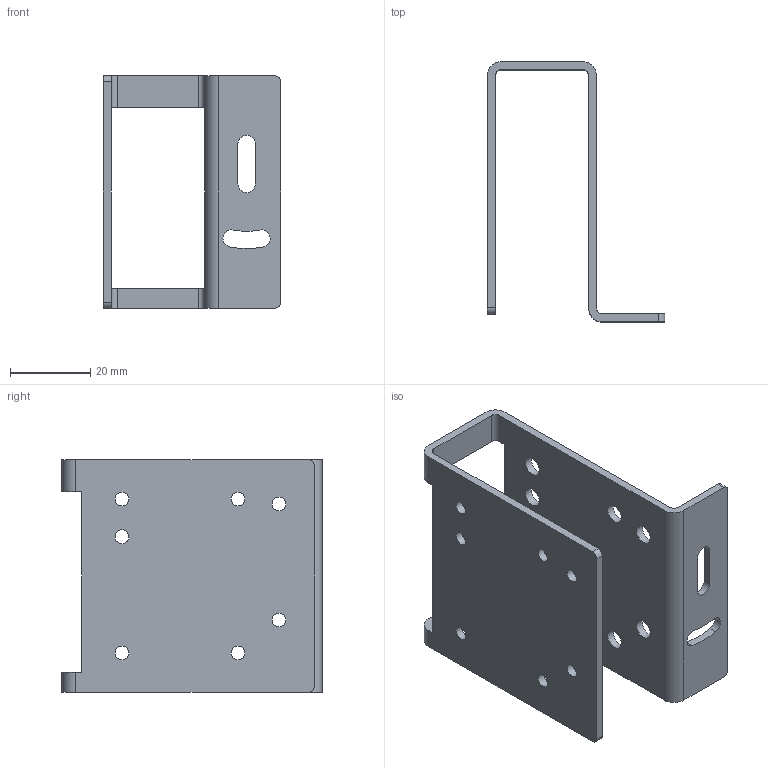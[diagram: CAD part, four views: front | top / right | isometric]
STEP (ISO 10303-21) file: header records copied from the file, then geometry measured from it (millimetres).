
FILE_DESCRIPTION(/* description */ (''),/* implementation_level */ '2;1');
FILE_NAME(/* name */ 'C:\#Vault-WorkDir\Konstruktions-Dokumente\Projekte\F55\Zubehör\153-00819_MSP F55.stp',/* time_stamp */ '2018-02-27T09:20:25+01:00',/* author */ ('SensoPart'),/* organization */ ('SensoPart'),/* preprocessor_version */ 'ST-DEVELOPER v16.1',/* originating_system */ 'Autodesk Inventor 2016',/* authorisation */ '');
FILE_SCHEMA (('AUTOMOTIVE_DESIGN { 1 0 10303 214 3 1 1 }'));
Length unit declared in the file: millimetre
Products named in the file (1): GH-ENG-0023060
Bounding box: 44.25 x 65 x 58 mm (x, y, z)
Volume: 15749.3 mm3; surface area: 17426.6 mm2
Topology: 1 solids, 1 shells, 54 faces, 169 edges, 115 vertices
Faces by surface type: cylinder 34, plane 20
Full cylindrical faces by diameter (mm): 3.422 x7, 4.8 x7
Entity records: 1890 total; most frequent: DIRECTION 326, CARTESIAN_POINT 311, ORIENTED_EDGE 296, EDGE_CURVE 148, AXIS2_PLACEMENT_3D 123, VERTEX_POINT 108, EDGE_LOOP 100, LINE 80
